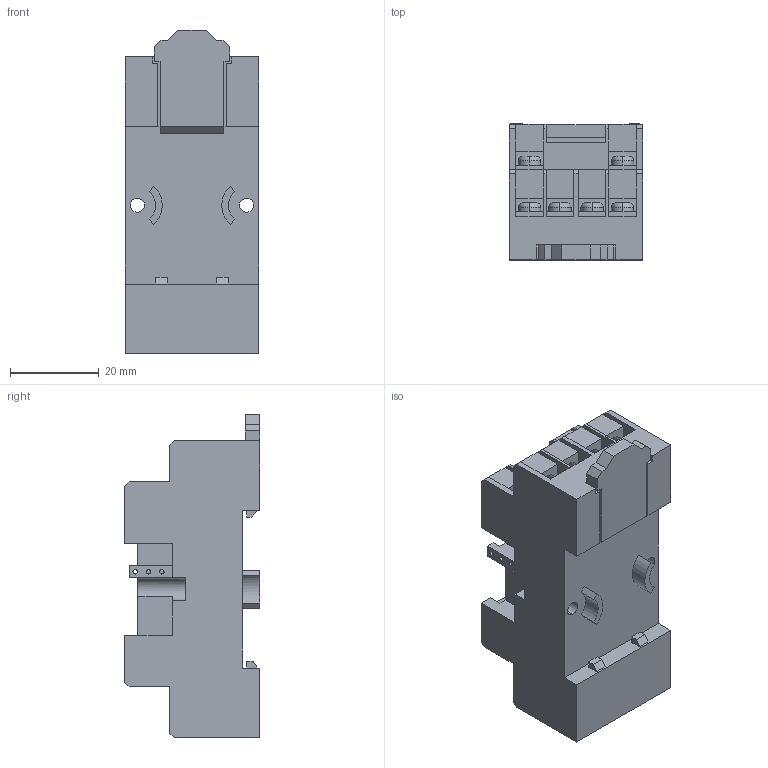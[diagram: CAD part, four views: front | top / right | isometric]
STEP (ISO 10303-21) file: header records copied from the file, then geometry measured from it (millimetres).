
FILE_DESCRIPTION (( 'STEP AP203' ), '1' );
FILE_NAME ('PRT5.STEP', '2019-07-05T17:41:43', ( '' ), ( '' ), 'SwSTEP 2.0', 'SolidWorks 2012', '' );
FILE_SCHEMA (( 'CONFIG_CONTROL_DESIGN' ));
Products named in the file (1): PRT5
Bounding box: 30 x 30.6 x 73 mm (x, y, z)
Volume: 40440.9 mm3; surface area: 16084 mm2
Topology: 1 solids, 1 shells, 1275 faces, 3477 edges, 2296 vertices
Faces by surface type: plane 981, bspline 182, cylinder 84, torus 28
Entity records: 50164 total; most frequent: CARTESIAN_POINT 19151, ORIENTED_EDGE 6954, DIRECTION 5361, EDGE_CURVE 3477, LINE 2661, VECTOR 2661, VERTEX_POINT 2296, EDGE_LOOP 1403
